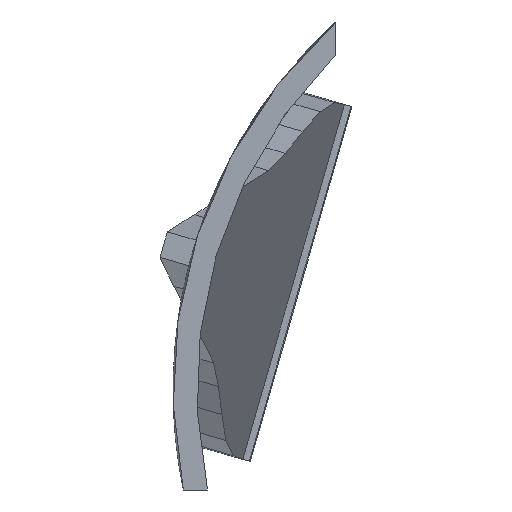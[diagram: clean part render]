
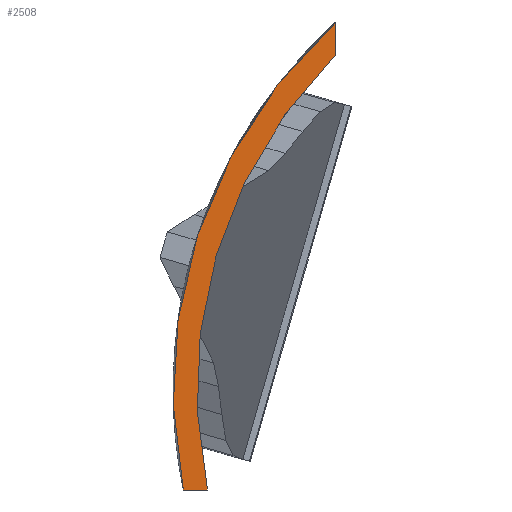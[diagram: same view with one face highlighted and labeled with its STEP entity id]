
A CAD part, left-side view. The second image highlights one B-rep face of the part: STEP entity #2508.
In plain terms, the highlighted planar face has unit normal (-1, 0, 0).
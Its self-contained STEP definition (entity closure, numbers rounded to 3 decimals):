
#44 = CYLINDRICAL_SURFACE('',#45,17.95);
#45 = AXIS2_PLACEMENT_3D('',#46,#47,#48);
#46 = CARTESIAN_POINT('',(203.065,0.,0.));
#47 = DIRECTION('',(1.,0.,0.));
#48 = DIRECTION('',(-0.,0.,1.));
#248 = VERTEX_POINT('',#249);
#249 = CARTESIAN_POINT('',(204.065,17.543,
    -3.798));
#262 = PLANE('',#263);
#263 = AXIS2_PLACEMENT_3D('',#264,#265,#266);
#264 = CARTESIAN_POINT('',(204.065,12.676,
    -3.798));
#265 = DIRECTION('',(0.,0.,1.));
#266 = DIRECTION('',(1.,0.,-0.));
#273 = EDGE_CURVE('',#248,#274,#276,.T.);
#274 = VERTEX_POINT('',#275);
#275 = CARTESIAN_POINT('',(204.065,12.676,12.71
    ));
#276 = SURFACE_CURVE('',#277,(#282,#289),.PCURVE_S1.);
#277 = CIRCLE('',#278,17.95);
#278 = AXIS2_PLACEMENT_3D('',#279,#280,#281);
#279 = CARTESIAN_POINT('',(204.065,0.,0.));
#280 = DIRECTION('',(1.,0.,0.));
#281 = DIRECTION('',(-0.,0.,1.));
#282 = PCURVE('',#44,#283);
#283 = DEFINITIONAL_REPRESENTATION('',(#284),#288);
#284 = LINE('',#285,#286);
#285 = CARTESIAN_POINT('',(0.,1.));
#286 = VECTOR('',#287,1.);
#287 = DIRECTION('',(1.,0.));
#288 = ( GEOMETRIC_REPRESENTATION_CONTEXT(2) 
PARAMETRIC_REPRESENTATION_CONTEXT() REPRESENTATION_CONTEXT('2D SPACE',''
  ) );
#289 = PCURVE('',#290,#295);
#290 = PLANE('',#291);
#291 = AXIS2_PLACEMENT_3D('',#292,#293,#294);
#292 = CARTESIAN_POINT('',(204.065,0.,0.));
#293 = DIRECTION('',(1.,0.,0.));
#294 = DIRECTION('',(-0.,0.,1.));
#295 = DEFINITIONAL_REPRESENTATION('',(#296),#300);
#296 = CIRCLE('',#297,17.95);
#297 = AXIS2_PLACEMENT_2D('',#298,#299);
#298 = CARTESIAN_POINT('',(0.,0.));
#299 = DIRECTION('',(1.,0.));
#300 = ( GEOMETRIC_REPRESENTATION_CONTEXT(2) 
PARAMETRIC_REPRESENTATION_CONTEXT() REPRESENTATION_CONTEXT('2D SPACE',''
  ) );
#317 = PLANE('',#318);
#318 = AXIS2_PLACEMENT_3D('',#319,#320,#321);
#319 = CARTESIAN_POINT('',(204.065,12.676,
    -3.798));
#320 = DIRECTION('',(-0.,1.,0.));
#321 = DIRECTION('',(0.,0.,1.));
#1320 = CYLINDRICAL_SURFACE('',#1321,18.85);
#1321 = AXIS2_PLACEMENT_3D('',#1322,#1323,#1324);
#1322 = CARTESIAN_POINT('',(204.065,0.,0.));
#1323 = DIRECTION('',(1.,0.,0.));
#1324 = DIRECTION('',(-0.,0.,1.));
#2465 = EDGE_CURVE('',#274,#2466,#2468,.T.);
#2466 = VERTEX_POINT('',#2467);
#2467 = CARTESIAN_POINT('',(204.065,12.676,
    13.952));
#2468 = SURFACE_CURVE('',#2469,(#2473,#2480),.PCURVE_S1.);
#2469 = LINE('',#2470,#2471);
#2470 = CARTESIAN_POINT('',(204.065,12.676,
    -3.798));
#2471 = VECTOR('',#2472,1.);
#2472 = DIRECTION('',(0.,0.,1.));
#2473 = PCURVE('',#317,#2474);
#2474 = DEFINITIONAL_REPRESENTATION('',(#2475),#2479);
#2475 = LINE('',#2476,#2477);
#2476 = CARTESIAN_POINT('',(0.,0.));
#2477 = VECTOR('',#2478,1.);
#2478 = DIRECTION('',(1.,0.));
#2479 = ( GEOMETRIC_REPRESENTATION_CONTEXT(2) 
PARAMETRIC_REPRESENTATION_CONTEXT() REPRESENTATION_CONTEXT('2D SPACE',''
  ) );
#2480 = PCURVE('',#290,#2481);
#2481 = DEFINITIONAL_REPRESENTATION('',(#2482),#2486);
#2482 = LINE('',#2483,#2484);
#2483 = CARTESIAN_POINT('',(-3.798,-12.676));
#2484 = VECTOR('',#2485,1.);
#2485 = DIRECTION('',(1.,0.));
#2486 = ( GEOMETRIC_REPRESENTATION_CONTEXT(2) 
PARAMETRIC_REPRESENTATION_CONTEXT() REPRESENTATION_CONTEXT('2D SPACE',''
  ) );
#2508 = ADVANCED_FACE('',(#2509),#290,.F.);
#2509 = FACE_BOUND('',#2510,.F.);
#2510 = EDGE_LOOP('',(#2511,#2534,#2556,#2557));
#2511 = ORIENTED_EDGE('',*,*,#2512,.T.);
#2512 = EDGE_CURVE('',#248,#2513,#2515,.T.);
#2513 = VERTEX_POINT('',#2514);
#2514 = CARTESIAN_POINT('',(204.065,18.463,
    -3.798));
#2515 = SURFACE_CURVE('',#2516,(#2520,#2527),.PCURVE_S1.);
#2516 = LINE('',#2517,#2518);
#2517 = CARTESIAN_POINT('',(204.065,12.676,
    -3.798));
#2518 = VECTOR('',#2519,1.);
#2519 = DIRECTION('',(-0.,1.,0.));
#2520 = PCURVE('',#290,#2521);
#2521 = DEFINITIONAL_REPRESENTATION('',(#2522),#2526);
#2522 = LINE('',#2523,#2524);
#2523 = CARTESIAN_POINT('',(-3.798,-12.676));
#2524 = VECTOR('',#2525,1.);
#2525 = DIRECTION('',(0.,-1.));
#2526 = ( GEOMETRIC_REPRESENTATION_CONTEXT(2) 
PARAMETRIC_REPRESENTATION_CONTEXT() REPRESENTATION_CONTEXT('2D SPACE',''
  ) );
#2527 = PCURVE('',#262,#2528);
#2528 = DEFINITIONAL_REPRESENTATION('',(#2529),#2533);
#2529 = LINE('',#2530,#2531);
#2530 = CARTESIAN_POINT('',(0.,0.));
#2531 = VECTOR('',#2532,1.);
#2532 = DIRECTION('',(0.,1.));
#2533 = ( GEOMETRIC_REPRESENTATION_CONTEXT(2) 
PARAMETRIC_REPRESENTATION_CONTEXT() REPRESENTATION_CONTEXT('2D SPACE',''
  ) );
#2534 = ORIENTED_EDGE('',*,*,#2535,.T.);
#2535 = EDGE_CURVE('',#2513,#2466,#2536,.T.);
#2536 = SURFACE_CURVE('',#2537,(#2542,#2549),.PCURVE_S1.);
#2537 = CIRCLE('',#2538,18.85);
#2538 = AXIS2_PLACEMENT_3D('',#2539,#2540,#2541);
#2539 = CARTESIAN_POINT('',(204.065,0.,0.));
#2540 = DIRECTION('',(1.,0.,0.));
#2541 = DIRECTION('',(-0.,0.,1.));
#2542 = PCURVE('',#290,#2543);
#2543 = DEFINITIONAL_REPRESENTATION('',(#2544),#2548);
#2544 = CIRCLE('',#2545,18.85);
#2545 = AXIS2_PLACEMENT_2D('',#2546,#2547);
#2546 = CARTESIAN_POINT('',(0.,0.));
#2547 = DIRECTION('',(1.,0.));
#2548 = ( GEOMETRIC_REPRESENTATION_CONTEXT(2) 
PARAMETRIC_REPRESENTATION_CONTEXT() REPRESENTATION_CONTEXT('2D SPACE',''
  ) );
#2549 = PCURVE('',#1320,#2550);
#2550 = DEFINITIONAL_REPRESENTATION('',(#2551),#2555);
#2551 = LINE('',#2552,#2553);
#2552 = CARTESIAN_POINT('',(0.,0.));
#2553 = VECTOR('',#2554,1.);
#2554 = DIRECTION('',(1.,0.));
#2555 = ( GEOMETRIC_REPRESENTATION_CONTEXT(2) 
PARAMETRIC_REPRESENTATION_CONTEXT() REPRESENTATION_CONTEXT('2D SPACE',''
  ) );
#2556 = ORIENTED_EDGE('',*,*,#2465,.F.);
#2557 = ORIENTED_EDGE('',*,*,#273,.F.);
